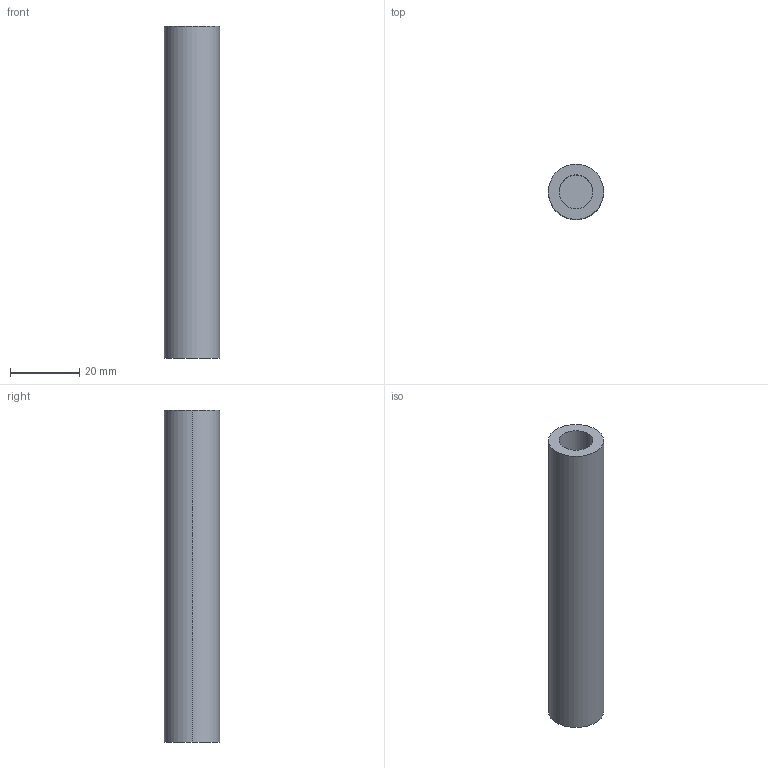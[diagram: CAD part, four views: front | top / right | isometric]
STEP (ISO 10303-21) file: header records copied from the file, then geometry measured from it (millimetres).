
FILE_DESCRIPTION (( 'STEP AP214' ), '1' );
FILE_NAME ('Optikit C-GL-50.STEP', '2020-05-19T08:23:36', ( '' ), ( '' ), 'SwSTEP 2.0', 'SolidWorks 2018', '' );
FILE_SCHEMA (( 'AUTOMOTIVE_DESIGN' ));
Length unit declared in the file: millimetre
Products named in the file (1): Optikit C-GL-50
Bounding box: 16 x 16 x 96 mm (x, y, z)
Volume: 12739.6 mm3; surface area: 7906.1 mm2
Topology: 1 solids, 1 shells, 10 faces, 18 edges, 12 vertices
Faces by surface type: cylinder 6, plane 4
Entity records: 288 total; most frequent: DIRECTION 52, CARTESIAN_POINT 41, ORIENTED_EDGE 36, AXIS2_PLACEMENT_3D 23, EDGE_CURVE 18, CIRCLE 12, EDGE_LOOP 12, VERTEX_POINT 12
